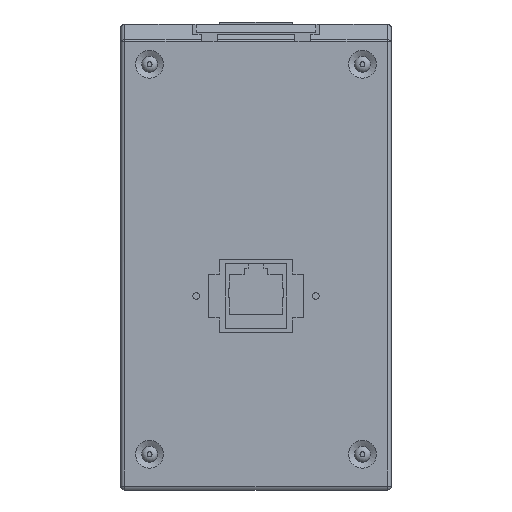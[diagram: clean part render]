
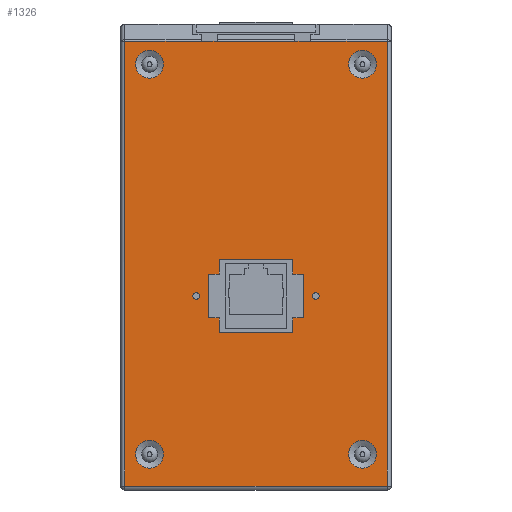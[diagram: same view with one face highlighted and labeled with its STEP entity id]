
A CAD part, left-side view. The second image highlights one B-rep face of the part: STEP entity #1326.
In plain terms, the highlighted planar face has unit normal (-1, 0, 0).
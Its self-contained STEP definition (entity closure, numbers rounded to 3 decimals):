
#1326=ADVANCED_FACE('',(#3250,#3252,#3254,#3256,#3258,#3260,#3262,#3264),#3266,.F.);
#3250=FACE_BOUND('',#3251,.T.);
#3251=EDGE_LOOP('',(#5041,#5042,#5043,#5044,#5045,#5046,#5047,#5048));
#3252=FACE_BOUND('',#3253,.T.);
#3253=EDGE_LOOP('',(#5049,#5050,#5051,#5052,#5053,#5054,#5055,#5056,#5057,#5058,
#5059,#5060));
#3254=FACE_BOUND('',#3255,.T.);
#3255=EDGE_LOOP('',(#5061));
#3256=FACE_BOUND('',#3257,.T.);
#3257=EDGE_LOOP('',(#5062));
#3258=FACE_BOUND('',#3259,.T.);
#3259=EDGE_LOOP('',(#5063));
#3260=FACE_BOUND('',#3261,.T.);
#3261=EDGE_LOOP('',(#5064));
#3262=FACE_BOUND('',#3263,.T.);
#3263=EDGE_LOOP('',(#5065));
#3264=FACE_BOUND('',#3265,.T.);
#3265=EDGE_LOOP('',(#5066));
#3266=PLANE('',#3267);
#3267=AXIS2_PLACEMENT_3D('',#3268,#3269,#3270);
#3268=CARTESIAN_POINT('',(0.,0.,0.));
#3269=DIRECTION('',(1.,0.,0.));
#3270=DIRECTION('',(0.,1.,0.));
#5041=ORIENTED_EDGE('',*,*,#5893,.T.);
#5042=ORIENTED_EDGE('',*,*,#5894,.T.);
#5043=ORIENTED_EDGE('',*,*,#5816,.F.);
#5044=ORIENTED_EDGE('',*,*,#5797,.F.);
#5045=ORIENTED_EDGE('',*,*,#5892,.F.);
#5046=ORIENTED_EDGE('',*,*,#5895,.T.);
#5047=ORIENTED_EDGE('',*,*,#5896,.T.);
#5048=ORIENTED_EDGE('',*,*,#5897,.T.);
#5049=ORIENTED_EDGE('',*,*,#5898,.T.);
#5050=ORIENTED_EDGE('',*,*,#5899,.T.);
#5051=ORIENTED_EDGE('',*,*,#5900,.T.);
#5052=ORIENTED_EDGE('',*,*,#5901,.T.);
#5053=ORIENTED_EDGE('',*,*,#5902,.T.);
#5054=ORIENTED_EDGE('',*,*,#5903,.T.);
#5055=ORIENTED_EDGE('',*,*,#5904,.T.);
#5056=ORIENTED_EDGE('',*,*,#5905,.T.);
#5057=ORIENTED_EDGE('',*,*,#5906,.T.);
#5058=ORIENTED_EDGE('',*,*,#5907,.T.);
#5059=ORIENTED_EDGE('',*,*,#5908,.T.);
#5060=ORIENTED_EDGE('',*,*,#5909,.T.);
#5061=ORIENTED_EDGE('',*,*,#5910,.T.);
#5062=ORIENTED_EDGE('',*,*,#5911,.T.);
#5063=ORIENTED_EDGE('',*,*,#5912,.T.);
#5064=ORIENTED_EDGE('',*,*,#5913,.T.);
#5065=ORIENTED_EDGE('',*,*,#5914,.T.);
#5066=ORIENTED_EDGE('',*,*,#5915,.T.);
#5797=EDGE_CURVE('',#6569,#6572,#6573,.T.);
#5816=EDGE_CURVE('',#6572,#6600,#6601,.T.);
#5892=EDGE_CURVE('',#6716,#6569,#6718,.T.);
#5893=EDGE_CURVE('',#6719,#6720,#6721,.T.);
#5894=EDGE_CURVE('',#6720,#6600,#6722,.T.);
#5895=EDGE_CURVE('',#6716,#6723,#6724,.T.);
#5896=EDGE_CURVE('',#6723,#6725,#6726,.T.);
#5897=EDGE_CURVE('',#6725,#6719,#6727,.T.);
#5898=EDGE_CURVE('',#6728,#6729,#6730,.T.);
#5899=EDGE_CURVE('',#6729,#6731,#6732,.T.);
#5900=EDGE_CURVE('',#6731,#6733,#6734,.T.);
#5901=EDGE_CURVE('',#6733,#6735,#6736,.T.);
#5902=EDGE_CURVE('',#6735,#6737,#6738,.T.);
#5903=EDGE_CURVE('',#6737,#6739,#6740,.T.);
#5904=EDGE_CURVE('',#6739,#6741,#6742,.T.);
#5905=EDGE_CURVE('',#6741,#6743,#6744,.T.);
#5906=EDGE_CURVE('',#6743,#6745,#6746,.T.);
#5907=EDGE_CURVE('',#6745,#6747,#6748,.T.);
#5908=EDGE_CURVE('',#6747,#6749,#6750,.T.);
#5909=EDGE_CURVE('',#6749,#6728,#6751,.T.);
#5910=EDGE_CURVE('',#6752,#6752,#6753,.F.);
#5911=EDGE_CURVE('',#6754,#6754,#6755,.F.);
#5912=EDGE_CURVE('',#6756,#6756,#6757,.F.);
#5913=EDGE_CURVE('',#6758,#6758,#6759,.F.);
#5914=EDGE_CURVE('',#6760,#6760,#6761,.F.);
#5915=EDGE_CURVE('',#6762,#6762,#6763,.F.);
#6569=VERTEX_POINT('',#8179);
#6572=VERTEX_POINT('',#8188);
#6573=LINE('',#8189,#8190);
#6600=VERTEX_POINT('',#8256);
#6601=LINE('',#8257,#8258);
#6716=VERTEX_POINT('',#8578);
#6718=LINE('',#8592,#8593);
#6719=VERTEX_POINT('',#8595);
#6720=VERTEX_POINT('',#8596);
#6721=LINE('',#8597,#8598);
#6722=LINE('',#8600,#8601);
#6723=VERTEX_POINT('',#8603);
#6724=LINE('',#8604,#8605);
#6725=VERTEX_POINT('',#8607);
#6726=LINE('',#8608,#8609);
#6727=LINE('',#8611,#8612);
#6728=VERTEX_POINT('',#8614);
#6729=VERTEX_POINT('',#8615);
#6730=LINE('',#8616,#8617);
#6731=VERTEX_POINT('',#8619);
#6732=LINE('',#8620,#8621);
#6733=VERTEX_POINT('',#8623);
#6734=LINE('',#8624,#8625);
#6735=VERTEX_POINT('',#8627);
#6736=LINE('',#8628,#8629);
#6737=VERTEX_POINT('',#8631);
#6738=LINE('',#8632,#8633);
#6739=VERTEX_POINT('',#8635);
#6740=LINE('',#8636,#8637);
#6741=VERTEX_POINT('',#8639);
#6742=LINE('',#8640,#8641);
#6743=VERTEX_POINT('',#8643);
#6744=LINE('',#8644,#8645);
#6745=VERTEX_POINT('',#8647);
#6746=LINE('',#8648,#8649);
#6747=VERTEX_POINT('',#8651);
#6748=LINE('',#8652,#8653);
#6749=VERTEX_POINT('',#8655);
#6750=LINE('',#8656,#8657);
#6751=LINE('',#8659,#8660);
#6752=VERTEX_POINT('',#8662);
#6753=CIRCLE('',#8663,0.85);
#6754=VERTEX_POINT('',#8667);
#6755=CIRCLE('',#8668,0.85);
#6756=VERTEX_POINT('',#8672);
#6757=CIRCLE('',#8673,3.5);
#6758=VERTEX_POINT('',#8677);
#6759=CIRCLE('',#8678,3.5);
#6760=VERTEX_POINT('',#8682);
#6761=CIRCLE('',#8683,3.5);
#6762=VERTEX_POINT('',#8687);
#6763=CIRCLE('',#8688,3.5);
#8179=CARTESIAN_POINT('',(0.,-33.,-57.5));
#8188=CARTESIAN_POINT('',(0.,33.,-57.5));
#8189=CARTESIAN_POINT('',(0.,-33.,-57.5));
#8190=VECTOR('',#8191,1.);
#8191=DIRECTION('',(0.,1.,0.));
#8256=CARTESIAN_POINT('',(0.,33.,54.221));
#8257=CARTESIAN_POINT('',(0.,33.,-57.5));
#8258=VECTOR('',#8259,1.);
#8259=DIRECTION('',(0.,0.,1.));
#8578=CARTESIAN_POINT('',(0.,-33.,54.221));
#8592=CARTESIAN_POINT('',(0.,-33.,54.221));
#8593=VECTOR('',#8594,1.);
#8594=DIRECTION('',(0.,0.,-1.));
#8595=CARTESIAN_POINT('',(0.,9.75,54.221));
#8596=CARTESIAN_POINT('',(0.,13.75,54.221));
#8597=CARTESIAN_POINT('',(0.,9.75,54.221));
#8598=VECTOR('',#8599,1.);
#8599=DIRECTION('',(0.,1.,0.));
#8600=CARTESIAN_POINT('',(0.,13.75,54.221));
#8601=VECTOR('',#8602,1.);
#8602=DIRECTION('',(0.,1.,0.));
#8603=CARTESIAN_POINT('',(0.,-13.75,54.221));
#8604=CARTESIAN_POINT('',(0.,-33.,54.221));
#8605=VECTOR('',#8606,1.);
#8606=DIRECTION('',(0.,1.,0.));
#8607=CARTESIAN_POINT('',(0.,-9.75,54.221));
#8608=CARTESIAN_POINT('',(0.,-13.75,54.221));
#8609=VECTOR('',#8610,1.);
#8610=DIRECTION('',(0.,1.,0.));
#8611=CARTESIAN_POINT('',(0.,-9.75,54.221));
#8612=VECTOR('',#8613,1.);
#8613=DIRECTION('',(0.,1.,0.));
#8614=CARTESIAN_POINT('',(0.,9.25,-4.25));
#8615=CARTESIAN_POINT('',(0.,9.25,-0.5));
#8616=CARTESIAN_POINT('',(0.,9.25,-4.25));
#8617=VECTOR('',#8618,1.);
#8618=DIRECTION('',(0.,0.,1.));
#8619=CARTESIAN_POINT('',(0.,-9.25,-0.5));
#8620=CARTESIAN_POINT('',(0.,9.25,-0.5));
#8621=VECTOR('',#8622,1.);
#8622=DIRECTION('',(0.,-1.,0.));
#8623=CARTESIAN_POINT('',(0.,-9.25,-4.25));
#8624=CARTESIAN_POINT('',(0.,-9.25,-0.5));
#8625=VECTOR('',#8626,1.);
#8626=DIRECTION('',(0.,0.,-1.));
#8627=CARTESIAN_POINT('',(0.,-11.9,-4.25));
#8628=CARTESIAN_POINT('',(0.,-9.25,-4.25));
#8629=VECTOR('',#8630,1.);
#8630=DIRECTION('',(0.,-1.,0.));
#8631=CARTESIAN_POINT('',(0.,-11.9,-15.25));
#8632=CARTESIAN_POINT('',(0.,-11.9,-4.25));
#8633=VECTOR('',#8634,1.);
#8634=DIRECTION('',(0.,0.,-1.));
#8635=CARTESIAN_POINT('',(0.,-9.25,-15.25));
#8636=CARTESIAN_POINT('',(0.,-11.9,-15.25));
#8637=VECTOR('',#8638,1.);
#8638=DIRECTION('',(0.,1.,0.));
#8639=CARTESIAN_POINT('',(0.,-9.25,-19.));
#8640=CARTESIAN_POINT('',(0.,-9.25,-15.25));
#8641=VECTOR('',#8642,1.);
#8642=DIRECTION('',(0.,0.,-1.));
#8643=CARTESIAN_POINT('',(0.,9.25,-19.));
#8644=CARTESIAN_POINT('',(0.,-9.25,-19.));
#8645=VECTOR('',#8646,1.);
#8646=DIRECTION('',(0.,1.,0.));
#8647=CARTESIAN_POINT('',(0.,9.25,-15.25));
#8648=CARTESIAN_POINT('',(0.,9.25,-19.));
#8649=VECTOR('',#8650,1.);
#8650=DIRECTION('',(0.,0.,1.));
#8651=CARTESIAN_POINT('',(0.,11.9,-15.25));
#8652=CARTESIAN_POINT('',(0.,9.25,-15.25));
#8653=VECTOR('',#8654,1.);
#8654=DIRECTION('',(0.,1.,0.));
#8655=CARTESIAN_POINT('',(0.,11.9,-4.25));
#8656=CARTESIAN_POINT('',(0.,11.9,-15.25));
#8657=VECTOR('',#8658,1.);
#8658=DIRECTION('',(0.,0.,1.));
#8659=CARTESIAN_POINT('',(0.,11.9,-4.25));
#8660=VECTOR('',#8661,1.);
#8661=DIRECTION('',(0.,-1.,0.));
#8662=CARTESIAN_POINT('',(0.,14.15,-9.75));
#8663=AXIS2_PLACEMENT_3D('',#8664,#8665,#8666);
#8664=CARTESIAN_POINT('',(0.,15.,-9.75));
#8665=DIRECTION('',(-1.,0.,0.));
#8666=DIRECTION('',(0.,-1.,0.));
#8667=CARTESIAN_POINT('',(0.,-15.85,-9.75));
#8668=AXIS2_PLACEMENT_3D('',#8669,#8670,#8671);
#8669=CARTESIAN_POINT('',(0.,-15.,-9.75));
#8670=DIRECTION('',(-1.,0.,0.));
#8671=DIRECTION('',(0.,-1.,0.));
#8672=CARTESIAN_POINT('',(0.,23.25,-49.5));
#8673=AXIS2_PLACEMENT_3D('',#8674,#8675,#8676);
#8674=CARTESIAN_POINT('',(0.,26.75,-49.5));
#8675=DIRECTION('',(-1.,0.,0.));
#8676=DIRECTION('',(0.,-1.,0.));
#8677=CARTESIAN_POINT('',(0.,23.25,48.5));
#8678=AXIS2_PLACEMENT_3D('',#8679,#8680,#8681);
#8679=CARTESIAN_POINT('',(0.,26.75,48.5));
#8680=DIRECTION('',(-1.,0.,0.));
#8681=DIRECTION('',(0.,-1.,0.));
#8682=CARTESIAN_POINT('',(0.,-30.25,48.5));
#8683=AXIS2_PLACEMENT_3D('',#8684,#8685,#8686);
#8684=CARTESIAN_POINT('',(0.,-26.75,48.5));
#8685=DIRECTION('',(-1.,0.,0.));
#8686=DIRECTION('',(0.,-1.,0.));
#8687=CARTESIAN_POINT('',(0.,-30.25,-49.5));
#8688=AXIS2_PLACEMENT_3D('',#8689,#8690,#8691);
#8689=CARTESIAN_POINT('',(0.,-26.75,-49.5));
#8690=DIRECTION('',(-1.,0.,0.));
#8691=DIRECTION('',(0.,-1.,0.));
